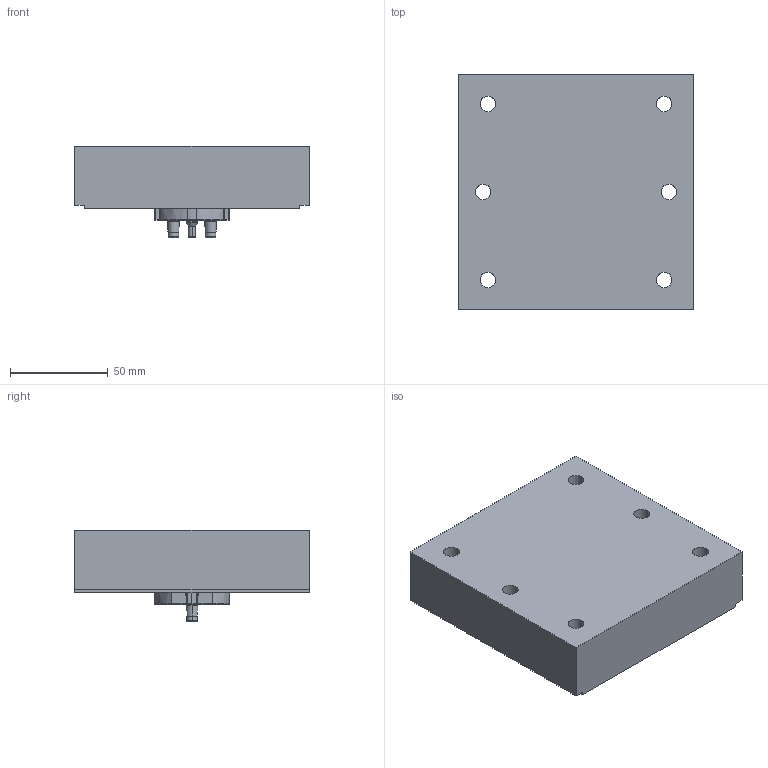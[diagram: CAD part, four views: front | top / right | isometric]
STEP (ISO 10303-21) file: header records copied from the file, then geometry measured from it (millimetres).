
FILE_DESCRIPTION (( 'STEP AP214' ), '1' );
FILE_NAME ('Mould-Side_B.STEP', '2020-01-06T13:06:07', ( 'Ritterchen' ), ( 'Microsoft' ), 'SwSTEP 2.0', 'SolidWorks 2020', '' );
FILE_SCHEMA (( 'AUTOMOTIVE_DESIGN' ));
Length unit declared in the file: millimetre
Products named in the file (1): Mould-Side_B
Bounding box: 120 x 120 x 47 mm (x, y, z)
Volume: 395153 mm3; surface area: 54375.7 mm2
Topology: 1 solids, 1 shells, 308 faces, 1307 edges, 1026 vertices
Faces by surface type: bspline 168, plane 52, cylinder 44, sphere 24, torus 12, cone 8
Entity records: 22344 total; most frequent: CARTESIAN_POINT 13633, ORIENTED_EDGE 2614, EDGE_CURVE 1307, VERTEX_POINT 1026, B_SPLINE_CURVE_WITH_KNOTS 970, DIRECTION 730, EDGE_LOOP 345, ADVANCED_FACE 308
